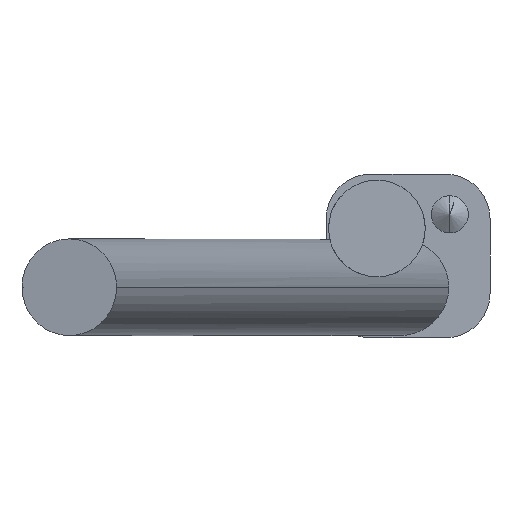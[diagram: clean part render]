
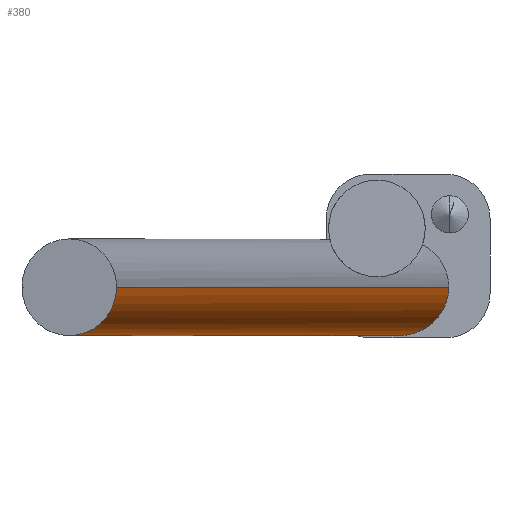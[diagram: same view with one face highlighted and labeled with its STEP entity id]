
A CAD part, front view. The second image highlights one B-rep face of the part: STEP entity #380.
In plain terms, the highlighted cylindrical face has radius 6.5 mm (diameter 13 mm), a partial arc.
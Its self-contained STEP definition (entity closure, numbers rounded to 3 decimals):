
#31 = CARTESIAN_POINT ( 'NONE',  ( -39.209, -210.169, -4.2 ) ) ;
#33 = CARTESIAN_POINT ( 'NONE',  ( -7.827, 0., -17.2 ) ) ;
#34 = DIRECTION ( 'NONE',  ( 0.208, 0.978, 0. ) ) ;
#54 = ORIENTED_EDGE ( 'NONE', *, *, #570, .F. ) ;
#60 = VERTEX_POINT ( 'NONE', #31 ) ;
#65 = EDGE_CURVE ( 'NONE', #481, #688, #296, .T. ) ;
#70 = CARTESIAN_POINT ( 'NONE',  ( -45.567, -208.818, -4.2 ) ) ;
#83 = DIRECTION ( 'NONE',  ( -0.208, -0.978, 0. ) ) ;
#86 = DIRECTION ( 'NONE',  ( 0.208, 0.978, 0. ) ) ;
#121 = CARTESIAN_POINT ( 'NONE',  ( 5.464, 0., -4.2 ) ) ;
#162 = CIRCLE ( 'NONE', #555, 6.5 ) ;
#244 = DIRECTION ( 'NONE',  ( -0.978, 0.208, 0. ) ) ;
#257 = CARTESIAN_POINT ( 'NONE',  ( -7.827, 0., -4.2 ) ) ;
#296 = LINE ( 'NONE', #534, #470 ) ;
#308 = CARTESIAN_POINT ( 'NONE',  ( -51.925, -207.466, -4.2 ) ) ;
#339 = ORIENTED_EDGE ( 'NONE', *, *, #418, .F. ) ;
#353 = VERTEX_POINT ( 'NONE', #121 ) ;
#370 = ORIENTED_EDGE ( 'NONE', *, *, #65, .T. ) ;
#373 = EDGE_LOOP ( 'NONE', ( #54, #339, #370, #644 ) ) ;
#380 = ADVANCED_FACE ( 'NONE', ( #529 ), #683, .T. ) ;
#418 = EDGE_CURVE ( 'NONE', #481, #60, #162, .T. ) ;
#431 = CARTESIAN_POINT ( 'NONE',  ( -39.209, -210.169, -4.2 ) ) ;
#464 = EDGE_CURVE ( 'NONE', #353, #688, #551, .T. ) ;
#470 = VECTOR ( 'NONE', #34, 1000. ) ;
#477 = DIRECTION ( 'NONE',  ( 0.978, -0.208, 0. ) ) ;
#478 = AXIS2_PLACEMENT_3D ( 'NONE', #70, #635, #244 ) ;
#481 = VERTEX_POINT ( 'NONE', #308 ) ;
#529 = FACE_OUTER_BOUND ( 'NONE', #373, .T. ) ;
#534 = CARTESIAN_POINT ( 'NONE',  ( -51.925, -207.466, -4.2 ) ) ;
#535 = CARTESIAN_POINT ( 'NONE',  ( 5.464, 0., -4.2 ) ) ;
#551 =( BOUNDED_CURVE ( )  B_SPLINE_CURVE ( 3, ( #535, #637, #33, #257 ),
 .UNSPECIFIED., .F., .T. ) 
 B_SPLINE_CURVE_WITH_KNOTS ( ( 4, 4 ),
 ( 0., 3.142 ),
 .UNSPECIFIED. ) 
 CURVE ( )  GEOMETRIC_REPRESENTATION_ITEM ( )  RATIONAL_B_SPLINE_CURVE ( ( 1., 0.333, 0.333, 1. ) ) 
 REPRESENTATION_ITEM ( '' )  );
#555 = AXIS2_PLACEMENT_3D ( 'NONE', #589, #83, #477 ) ;
#570 = EDGE_CURVE ( 'NONE', #60, #353, #642, .T. ) ;
#589 = CARTESIAN_POINT ( 'NONE',  ( -45.567, -208.818, -4.2 ) ) ;
#596 = VECTOR ( 'NONE', #86, 1000. ) ;
#611 = CARTESIAN_POINT ( 'NONE',  ( -7.827, 0., -4.2 ) ) ;
#635 = DIRECTION ( 'NONE',  ( 0.208, 0.978, 0. ) ) ;
#637 = CARTESIAN_POINT ( 'NONE',  ( 5.464, 0., -17.2 ) ) ;
#642 = LINE ( 'NONE', #431, #596 ) ;
#644 = ORIENTED_EDGE ( 'NONE', *, *, #464, .F. ) ;
#683 = CYLINDRICAL_SURFACE ( 'NONE', #478, 6.5 ) ;
#688 = VERTEX_POINT ( 'NONE', #611 ) ;
